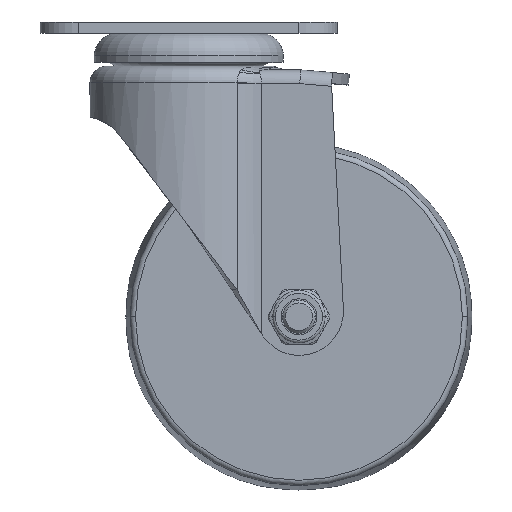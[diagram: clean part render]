
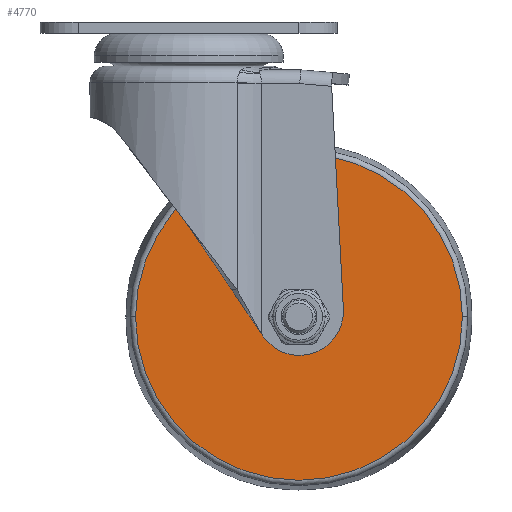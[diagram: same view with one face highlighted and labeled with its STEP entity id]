
A CAD part, top view. The second image highlights one B-rep face of the part: STEP entity #4770.
In plain terms, the highlighted planar face has unit normal (0, 0, 1) as drawn and (1, 0, 0) by its records, which use the part's own axes.
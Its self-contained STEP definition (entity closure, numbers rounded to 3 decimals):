
#4423=CARTESIAN_POINT('',(10.,0.,0.));
#4424=DIRECTION('',(-1.,0.,0.));
#4425=DIRECTION('',(0.,1.,0.));
#4426=AXIS2_PLACEMENT_3D('',#4423,#4424,#4425);
#4428=CARTESIAN_POINT('',(10.,0.,0.));
#4429=DIRECTION('',(1.,0.,0.));
#4430=DIRECTION('',(0.,1.,0.));
#4431=AXIS2_PLACEMENT_3D('',#4428,#4429,#4430);
#4433=CARTESIAN_POINT('',(10.,0.,0.));
#4434=DIRECTION('',(1.,0.,0.));
#4435=DIRECTION('',(0.,1.,0.));
#4436=AXIS2_PLACEMENT_3D('',#4433,#4434,#4435);
#4448=CARTESIAN_POINT('',(10.,0.,0.));
#4449=DIRECTION('',(-1.,0.,0.));
#4450=DIRECTION('',(0.,1.,0.));
#4451=AXIS2_PLACEMENT_3D('',#4448,#4449,#4450);
#4579=CARTESIAN_POINT('',(10.,6.353,0.));
#4580=VERTEX_POINT('',#4579);
#4581=CARTESIAN_POINT('',(10.,29.666,0.));
#4583=VERTEX_POINT('',#4581);
#4607=CARTESIAN_POINT('',(10.,-6.353,0.));
#4608=VERTEX_POINT('',#4607);
#4609=CARTESIAN_POINT('',(10.,-29.666,0.));
#4611=VERTEX_POINT('',#4609);
#4755=CARTESIAN_POINT('',(10.,0.,0.));
#4756=DIRECTION('',(1.,0.,0.));
#4757=DIRECTION('',(0.,-1.,0.));
#4758=AXIS2_PLACEMENT_3D('',#4755,#4756,#4757);
#4759=PLANE('',#4758);
#4761=ORIENTED_EDGE('',*,*,#4760,.F.);
#4763=ORIENTED_EDGE('',*,*,#4762,.T.);
#4764=EDGE_LOOP('',(#4761,#4763));
#4765=FACE_OUTER_BOUND('',#4764,.F.);
#4766=ORIENTED_EDGE('',*,*,#4734,.F.);
#4767=ORIENTED_EDGE('',*,*,#4750,.T.);
#4768=EDGE_LOOP('',(#4766,#4767));
#4769=FACE_BOUND('',#4768,.F.);
#4427=CIRCLE('',#4426,6.353);
#4432=CIRCLE('',#4431,6.353);
#4437=CIRCLE('',#4436,29.666);
#4452=CIRCLE('',#4451,29.666);
#4734=EDGE_CURVE('',#4580,#4608,#4427,.T.);
#4750=EDGE_CURVE('',#4580,#4608,#4432,.T.);
#4760=EDGE_CURVE('',#4583,#4611,#4437,.T.);
#4762=EDGE_CURVE('',#4583,#4611,#4452,.T.);
#4770=ADVANCED_FACE('',(#4765,#4769),#4759,.T.);
